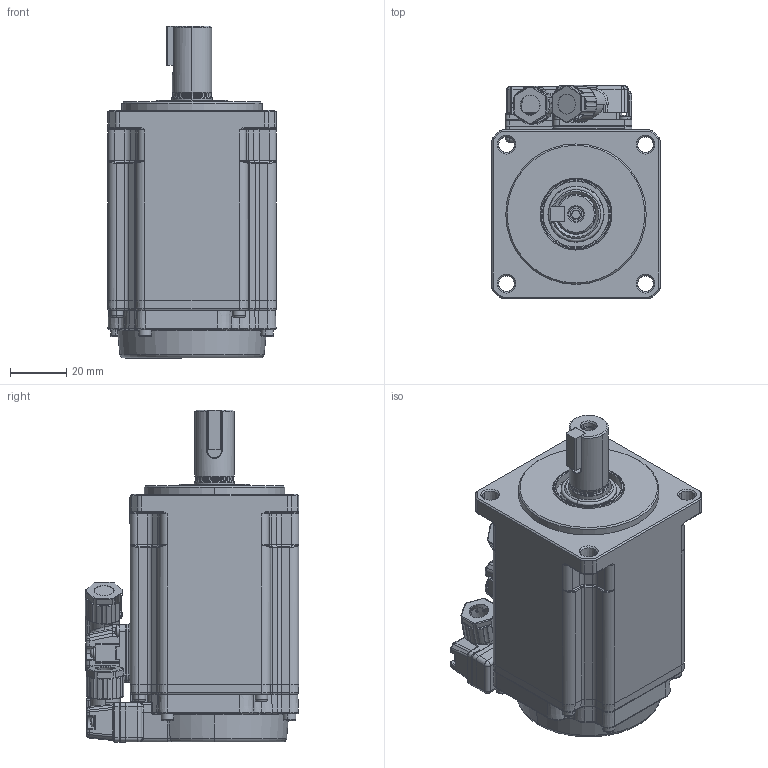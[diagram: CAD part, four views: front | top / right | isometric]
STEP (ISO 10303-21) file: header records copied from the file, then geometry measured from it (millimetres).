
FILE_DESCRIPTION (( 'STEP AP203' ), '1' );
FILE_NAME ('60x60-400W带油封无制动器模型.STEP', '2023-07-15T08:26:47', ( '' ), ( '' ), 'SwSTEP 2.0', 'SolidWorks 2020', '' );
FILE_SCHEMA (( 'CONFIG_CONTROL_DESIGN' ));
Length unit declared in the file: millimetre
Products named in the file (1): 60x60-400W带油封无制动器模型
Bounding box: 60 x 75.95 x 118.2 mm (x, y, z)
Surface area: 36099.9 mm2 (no closed solid volume)
Topology: 0 solids, 29 shells, 1393 faces, 4831 edges, 3269 vertices
Faces by surface type: plane 468, cylinder 438, torus 218, bspline 132, cone 108, sphere 29
Entity records: 58792 total; most frequent: CARTESIAN_POINT 19482, DIRECTION 7863, ORIENTED_EDGE 7781, EDGE_CURVE 4792, VERTEX_POINT 3269, AXIS2_PLACEMENT_3D 2844, LINE 2175, VECTOR 2175
